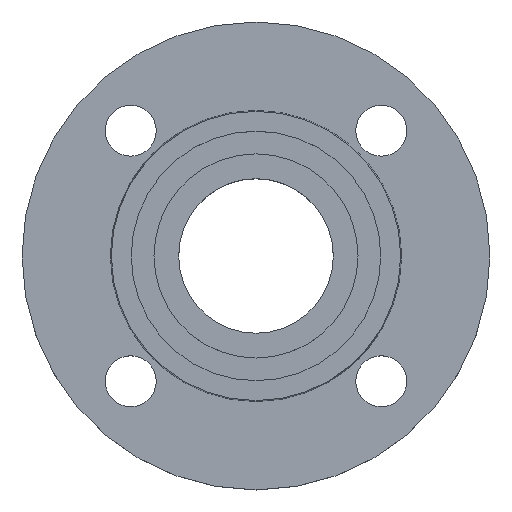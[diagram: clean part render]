
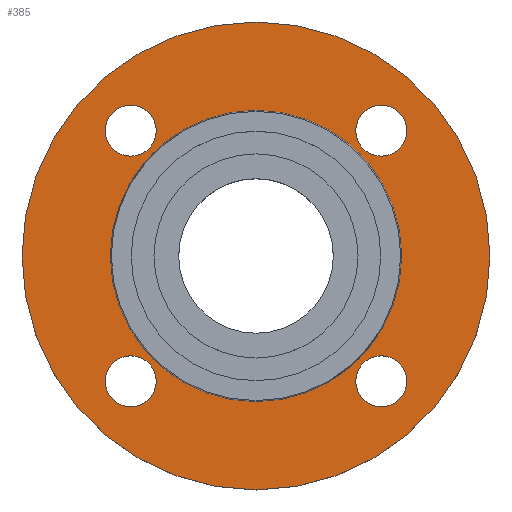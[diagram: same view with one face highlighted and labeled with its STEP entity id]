
A CAD part, top view. The second image highlights one B-rep face of the part: STEP entity #385.
In plain terms, the highlighted planar face has unit normal (0, 0, 1).
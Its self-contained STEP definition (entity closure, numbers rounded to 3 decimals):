
#4 = CIRCLE ( 'NONE', #14, 9. ) ;
#8 = CARTESIAN_POINT ( 'NONE',  ( -53.194, -44.194, -2. ) ) ;
#14 = AXIS2_PLACEMENT_3D ( 'NONE', #581, #578, #577 ) ;
#37 = CARTESIAN_POINT ( 'NONE',  ( -35.194, -44.194, -2. ) ) ;
#78 = EDGE_CURVE ( 'NONE', #719, #743, #382, .T. ) ;
#99 = EDGE_CURVE ( 'NONE', #803, #772, #4, .T. ) ;
#148 = DIRECTION ( 'NONE',  ( 1., 0., 0. ) ) ;
#150 = DIRECTION ( 'NONE',  ( 0., 0., -1. ) ) ;
#153 = CARTESIAN_POINT ( 'NONE',  ( 44.194, 44.194, -2. ) ) ;
#165 = DIRECTION ( 'NONE',  ( 1., 0., 0. ) ) ;
#169 = DIRECTION ( 'NONE',  ( 0., 0., 1. ) ) ;
#170 = CARTESIAN_POINT ( 'NONE',  ( 51.353, 0., -2. ) ) ;
#171 = PLANE ( 'NONE',  #562 ) ;
#173 = FACE_OUTER_BOUND ( 'NONE', #712, .T. ) ;
#175 = FACE_BOUND ( 'NONE', #708, .T. ) ;
#177 = FACE_BOUND ( 'NONE', #701, .T. ) ;
#181 = FACE_BOUND ( 'NONE', #698, .T. ) ;
#182 = FACE_BOUND ( 'NONE', #702, .T. ) ;
#184 = FACE_BOUND ( 'NONE', #640, .T. ) ;
#185 = DIRECTION ( 'NONE',  ( 1., 0., 0. ) ) ;
#190 = DIRECTION ( 'NONE',  ( 0., 0., -1. ) ) ;
#191 = DIRECTION ( 'NONE',  ( -1., 0., 0. ) ) ;
#193 = CARTESIAN_POINT ( 'NONE',  ( 44.194, -44.194, -2. ) ) ;
#194 = DIRECTION ( 'NONE',  ( 0., 0., -1. ) ) ;
#197 = CIRCLE ( 'NONE', #563, 9. ) ;
#199 = CARTESIAN_POINT ( 'NONE',  ( 0., 0., -2. ) ) ;
#200 = DIRECTION ( 'NONE',  ( 1., 0., 0. ) ) ;
#203 = AXIS2_PLACEMENT_3D ( 'NONE', #153, #150, #148 ) ;
#212 = AXIS2_PLACEMENT_3D ( 'NONE', #615, #613, #612 ) ;
#220 = DIRECTION ( 'NONE',  ( 0., 0., -1. ) ) ;
#222 = DIRECTION ( 'NONE',  ( 0., 0., -1. ) ) ;
#227 = CIRCLE ( 'NONE', #230, 9. ) ;
#230 = AXIS2_PLACEMENT_3D ( 'NONE', #333, #327, #326 ) ;
#232 = CIRCLE ( 'NONE', #235, 9. ) ;
#235 = AXIS2_PLACEMENT_3D ( 'NONE', #318, #317, #315 ) ;
#238 = CARTESIAN_POINT ( 'NONE',  ( -44.194, -44.194, -2. ) ) ;
#244 = CIRCLE ( 'NONE', #254, 9. ) ;
#254 = AXIS2_PLACEMENT_3D ( 'NONE', #238, #222, #200 ) ;
#256 = CIRCLE ( 'NONE', #258, 82.5 ) ;
#258 = AXIS2_PLACEMENT_3D ( 'NONE', #199, #194, #191 ) ;
#315 = DIRECTION ( 'NONE',  ( 1., 0., 0. ) ) ;
#317 = DIRECTION ( 'NONE',  ( 0., 0., -1. ) ) ;
#318 = CARTESIAN_POINT ( 'NONE',  ( 44.194, 44.194, -2. ) ) ;
#319 = CARTESIAN_POINT ( 'NONE',  ( -53.194, 44.194, -2. ) ) ;
#326 = DIRECTION ( 'NONE',  ( 1., 0., 0. ) ) ;
#327 = DIRECTION ( 'NONE',  ( 0., 0., -1. ) ) ;
#333 = CARTESIAN_POINT ( 'NONE',  ( -44.194, -44.194, -2. ) ) ;
#351 = CIRCLE ( 'NONE', #356, 51.353 ) ;
#356 = AXIS2_PLACEMENT_3D ( 'NONE', #913, #911, #909 ) ;
#361 = EDGE_CURVE ( 'NONE', #731, #638, #197, .T. ) ;
#367 = CIRCLE ( 'NONE', #369, 82.5 ) ;
#369 = AXIS2_PLACEMENT_3D ( 'NONE', #896, #895, #894 ) ;
#378 = CARTESIAN_POINT ( 'NONE',  ( -35.194, 44.194, -2. ) ) ;
#382 = CIRCLE ( 'NONE', #212, 51.353 ) ;
#385 = ADVANCED_FACE ( 'NONE', ( #184, #182, #181, #177, #175, #173 ), #171, .T. ) ;
#397 = CIRCLE ( 'NONE', #403, 9. ) ;
#403 = AXIS2_PLACEMENT_3D ( 'NONE', #858, #857, #855 ) ;
#406 = EDGE_CURVE ( 'NONE', #729, #742, #561, .T. ) ;
#407 = CARTESIAN_POINT ( 'NONE',  ( -51.353, 0., -2. ) ) ;
#408 = CARTESIAN_POINT ( 'NONE',  ( 53.194, 44.194, -2. ) ) ;
#411 = CARTESIAN_POINT ( 'NONE',  ( -82.5, 0., -2. ) ) ;
#417 = CARTESIAN_POINT ( 'NONE',  ( 35.194, -44.194, -2. ) ) ;
#421 = CARTESIAN_POINT ( 'NONE',  ( 35.194, 44.194, -2. ) ) ;
#431 = CARTESIAN_POINT ( 'NONE',  ( 51.353, 0., -2. ) ) ;
#472 = CARTESIAN_POINT ( 'NONE',  ( 82.5, 0., -2. ) ) ;
#475 = CIRCLE ( 'NONE', #477, 9. ) ;
#477 = AXIS2_PLACEMENT_3D ( 'NONE', #609, #220, #485 ) ;
#485 = DIRECTION ( 'NONE',  ( 1., 0., 0. ) ) ;
#561 = CIRCLE ( 'NONE', #203, 9. ) ;
#562 = AXIS2_PLACEMENT_3D ( 'NONE', #170, #169, #165 ) ;
#563 = AXIS2_PLACEMENT_3D ( 'NONE', #193, #190, #185 ) ;
#577 = DIRECTION ( 'NONE',  ( 1., 0., 0. ) ) ;
#578 = DIRECTION ( 'NONE',  ( 0., 0., -1. ) ) ;
#581 = CARTESIAN_POINT ( 'NONE',  ( -44.194, 44.194, -2. ) ) ;
#609 = CARTESIAN_POINT ( 'NONE',  ( -44.194, 44.194, -2. ) ) ;
#612 = DIRECTION ( 'NONE',  ( -1., 0., 0. ) ) ;
#613 = DIRECTION ( 'NONE',  ( 0., 0., -1. ) ) ;
#615 = CARTESIAN_POINT ( 'NONE',  ( 0., 0., -2. ) ) ;
#638 = VERTEX_POINT ( 'NONE', #864 ) ;
#640 = EDGE_LOOP ( 'NONE', ( #838, #837 ) ) ;
#641 = EDGE_CURVE ( 'NONE', #772, #803, #475, .T. ) ;
#685 = VERTEX_POINT ( 'NONE', #472 ) ;
#698 = EDGE_LOOP ( 'NONE', ( #841, #842 ) ) ;
#701 = EDGE_LOOP ( 'NONE', ( #844, #847 ) ) ;
#702 = EDGE_LOOP ( 'NONE', ( #840, #835 ) ) ;
#708 = EDGE_LOOP ( 'NONE', ( #846, #845 ) ) ;
#712 = EDGE_LOOP ( 'NONE', ( #861, #826 ) ) ;
#719 = VERTEX_POINT ( 'NONE', #431 ) ;
#729 = VERTEX_POINT ( 'NONE', #421 ) ;
#731 = VERTEX_POINT ( 'NONE', #417 ) ;
#738 = VERTEX_POINT ( 'NONE', #411 ) ;
#742 = VERTEX_POINT ( 'NONE', #408 ) ;
#743 = VERTEX_POINT ( 'NONE', #407 ) ;
#772 = VERTEX_POINT ( 'NONE', #378 ) ;
#797 = EDGE_CURVE ( 'NONE', #966, #953, #227, .T. ) ;
#803 = VERTEX_POINT ( 'NONE', #319 ) ;
#805 = EDGE_CURVE ( 'NONE', #742, #729, #232, .T. ) ;
#825 = EDGE_CURVE ( 'NONE', #953, #966, #244, .T. ) ;
#826 = ORIENTED_EDGE ( 'NONE', *, *, #833, .F. ) ;
#833 = EDGE_CURVE ( 'NONE', #738, #685, #256, .T. ) ;
#835 = ORIENTED_EDGE ( 'NONE', *, *, #797, .T. ) ;
#837 = ORIENTED_EDGE ( 'NONE', *, *, #361, .T. ) ;
#838 = ORIENTED_EDGE ( 'NONE', *, *, #984, .T. ) ;
#840 = ORIENTED_EDGE ( 'NONE', *, *, #825, .T. ) ;
#841 = ORIENTED_EDGE ( 'NONE', *, *, #641, .T. ) ;
#842 = ORIENTED_EDGE ( 'NONE', *, *, #99, .T. ) ;
#844 = ORIENTED_EDGE ( 'NONE', *, *, #805, .T. ) ;
#845 = ORIENTED_EDGE ( 'NONE', *, *, #78, .T. ) ;
#846 = ORIENTED_EDGE ( 'NONE', *, *, #975, .T. ) ;
#847 = ORIENTED_EDGE ( 'NONE', *, *, #406, .T. ) ;
#855 = DIRECTION ( 'NONE',  ( 1., 0., 0. ) ) ;
#857 = DIRECTION ( 'NONE',  ( 0., 0., -1. ) ) ;
#858 = CARTESIAN_POINT ( 'NONE',  ( 44.194, -44.194, -2. ) ) ;
#861 = ORIENTED_EDGE ( 'NONE', *, *, #978, .F. ) ;
#864 = CARTESIAN_POINT ( 'NONE',  ( 53.194, -44.194, -2. ) ) ;
#894 = DIRECTION ( 'NONE',  ( -1., 0., 0. ) ) ;
#895 = DIRECTION ( 'NONE',  ( 0., 0., -1. ) ) ;
#896 = CARTESIAN_POINT ( 'NONE',  ( 0., 0., -2. ) ) ;
#909 = DIRECTION ( 'NONE',  ( -1., 0., 0. ) ) ;
#911 = DIRECTION ( 'NONE',  ( 0., 0., -1. ) ) ;
#913 = CARTESIAN_POINT ( 'NONE',  ( 0., 0., -2. ) ) ;
#953 = VERTEX_POINT ( 'NONE', #37 ) ;
#966 = VERTEX_POINT ( 'NONE', #8 ) ;
#975 = EDGE_CURVE ( 'NONE', #743, #719, #351, .T. ) ;
#978 = EDGE_CURVE ( 'NONE', #685, #738, #367, .T. ) ;
#984 = EDGE_CURVE ( 'NONE', #638, #731, #397, .T. ) ;
